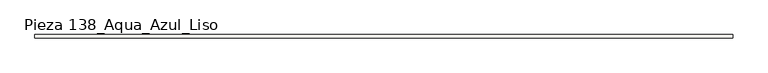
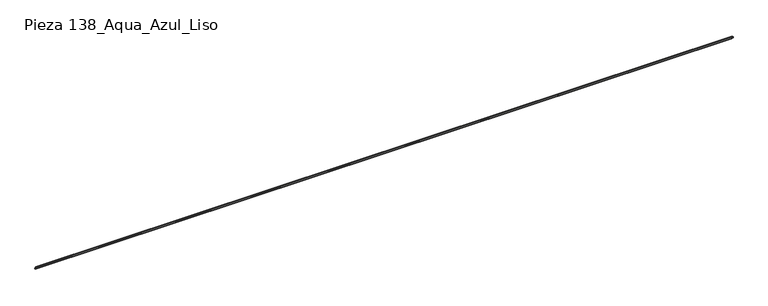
"""IFC4 building model written with IfcOpenShell, lengths in millimetres: slab geometry, ROSA GRES_138 : Pieza 138_Aqua_Azul_Liso."""

import ifcopenshell
import ifcopenshell.guid

model = None  # the IFC model being written
_history = None  # IfcOwnerHistory: only IFC2X3 demands one
_inside = {}  # id of a spatial element -> (the spatial element, [elements in it])
_under = {}  # id of a project, library or spatial element -> (it, [spatial elements below it])
_declared = {}  # id of a project -> (the project, [libraries it declares])
_typed = {}  # id of a type object -> (the type object, [elements of that type])
_made_of = {}  # id of a material, layer set ... -> (it, [elements and type objects made of it])


def new_model(schema):
    """Start an empty IFC model of exactly this schema.

    Asked for "IFC4X3", IfcOpenShell would pick the latest addendum, in which some entities
    have other attributes; the version numbers below select the first issue.
    IFC2X3 requires an IfcOwnerHistory on every rooted entity: one is made here for all.
    """
    global model, _history
    if schema == "IFC4X3":
        model = ifcopenshell.file(schema_version=(4, 3, 0, 0))
    else:
        model = ifcopenshell.file(schema=schema)
    _inside.clear()
    _under.clear()
    _declared.clear()
    _typed.clear()
    _made_of.clear()
    _history = None
    if model.schema == "IFC2X3":
        org = make("IfcOrganization", Name="unknown")
        user = make(
            "IfcPersonAndOrganization",
            ThePerson=make("IfcPerson", FamilyName="unknown"),
            TheOrganization=org,
        )
        app = make(
            "IfcApplication",
            ApplicationDeveloper=org,
            Version="unknown",
            ApplicationFullName="unknown",
            ApplicationIdentifier="unknown",
        )
        _history = make(
            "IfcOwnerHistory",
            OwningUser=user,
            OwningApplication=app,
            ChangeAction="ADDED",
            CreationDate=0,
        )
    return model


def make(cls, **values):
    """One entity of the class cls with the attributes given. An attribute that is None is left unset."""
    return model.create_entity(
        cls, **{name: value for name, value in values.items() if value is not None}
    )


def rooted(cls, **values):
    """An entity with a GlobalId (a new one), such as an element, a storey or a relation."""
    return make(cls, GlobalId=ifcopenshell.guid.new(), OwnerHistory=_history, **values)


def si_unit(unit_type, name, prefix=None):
    """IfcSIUnit, for example si_unit("LENGTHUNIT", "METRE", prefix="MILLI")."""
    return make("IfcSIUnit", UnitType=unit_type, Prefix=prefix, Name=name)


def assignment(units):
    """IfcUnitAssignment: the units of a project."""
    return None if units is None else make("IfcUnitAssignment", Units=units)


def point(xyz):
    """IfcCartesianPoint."""
    return None if xyz is None else make("IfcCartesianPoint", Coordinates=xyz)


def direction(xyz):
    """IfcDirection."""
    return None if xyz is None else make("IfcDirection", DirectionRatios=xyz)


def frame(location, z_axis=None, x_axis=None):
    """IfcAxis2Placement3D, a coordinate frame: its origin and axes. An axis left out is left unset."""
    return make(
        "IfcAxis2Placement3D",
        Location=point(location),
        Axis=direction(z_axis),
        RefDirection=direction(x_axis),
    )


def frame_2d(location, x_axis=None):
    """IfcAxis2Placement2D, a coordinate frame in the plane: its origin and x axis."""
    return make(
        "IfcAxis2Placement2D", Location=point(location), RefDirection=direction(x_axis)
    )


def origin():
    """The frame at (0, 0, 0) with its axes left unset."""
    return frame((0.0, 0.0, 0.0))


def origin_2d():
    """The frame at (0, 0) in the plane with its x axis left unset."""
    return frame_2d((0.0, 0.0))


def place(relative_to, where):
    """IfcLocalPlacement: puts the frame where relative to a parent placement (None: the world)."""
    return make(
        "IfcLocalPlacement", PlacementRelTo=relative_to, RelativePlacement=where
    )


def context(
    kind, dimensions, precision=None, world=None, true_north=None, identifier=None
):
    """IfcGeometricRepresentationContext, for example the 3D "Model" context."""
    return make(
        "IfcGeometricRepresentationContext",
        ContextIdentifier=identifier,
        ContextType=kind,
        CoordinateSpaceDimension=dimensions,
        Precision=precision,
        WorldCoordinateSystem=world,
        TrueNorth=true_north,
    )


def project(units=None, contexts=None):
    """IfcProject with its units and contexts."""
    return rooted(
        "IfcProject",
        Name="project",
        RepresentationContexts=contexts,
        UnitsInContext=assignment(units),
    )


def spatial(cls, under=None, at=None, **own):
    """A site, building, storey or space (cls), placed at a placement, below another one or the project."""
    s = rooted(cls, ObjectPlacement=at, **own)
    if under is not None:
        _under.setdefault(under.id(), (under, []))[1].append(s)
    return s


def polyline(points):
    """IfcPolyline through the points."""
    return make("IfcPolyline", Points=[point(p) for p in points])


def circle_curve(where, radius):
    """IfcCircle in the frame where."""
    return make("IfcCircle", Position=where, Radius=radius)


def trimmed(basis, trim1, trim2, sense, master):
    """IfcTrimmedCurve: the piece of a basis curve between two trims."""
    return make(
        "IfcTrimmedCurve",
        BasisCurve=basis,
        Trim1=trim1,
        Trim2=trim2,
        SenseAgreement=sense,
        MasterRepresentation=master,
    )


def segment(curve, same_sense, transition):
    """IfcCompositeCurveSegment."""
    return make(
        "IfcCompositeCurveSegment",
        Transition=transition,
        SameSense=same_sense,
        ParentCurve=curve,
    )


def composite_curve(segments, self_intersect=None):
    """IfcCompositeCurve: segments joined end to end."""
    return make("IfcCompositeCurve", Segments=segments, SelfIntersect=self_intersect)


def outline(outer, holes=None, kind="AREA"):
    """IfcArbitraryClosedProfileDef: a profile drawn as a closed curve; with holes, ...WithVoids."""
    if holes is None:
        return make("IfcArbitraryClosedProfileDef", ProfileType=kind, OuterCurve=outer)
    return make(
        "IfcArbitraryProfileDefWithVoids",
        ProfileType=kind,
        OuterCurve=outer,
        InnerCurves=holes,
    )


def extrude(swept, where, along, depth):
    """IfcExtrudedAreaSolid: the profile swept, set in the frame where, extruded along a direction by depth."""
    return make(
        "IfcExtrudedAreaSolid",
        SweptArea=swept,
        Position=where,
        ExtrudedDirection=direction(along),
        Depth=depth,
    )


def shape(context_of_items, identifier, shape_type, items):
    """IfcShapeRepresentation: the items that make up one representation, for example the "Body"."""
    return make(
        "IfcShapeRepresentation",
        ContextOfItems=context_of_items,
        RepresentationIdentifier=identifier,
        RepresentationType=shape_type,
        Items=items,
    )


def source(mapping_origin, context_of_items, identifier, shape_type, items):
    """IfcRepresentationMap: a shape defined once, which mapped items show again and again."""
    return make(
        "IfcRepresentationMap",
        MappingOrigin=mapping_origin,
        MappedRepresentation=shape(context_of_items, identifier, shape_type, items),
    )


def transform(
    local_origin,
    x_axis=None,
    y_axis=None,
    z_axis=None,
    scale=None,
    scale2=None,
    scale3=None,
    uniform=True,
):
    """IfcCartesianTransformationOperator3D, or its non-uniform kind. x_axis, y_axis, z_axis: its Axis1, 2, 3."""
    if uniform:
        return make(
            "IfcCartesianTransformationOperator3D",
            Axis1=direction(x_axis),
            Axis2=direction(y_axis),
            LocalOrigin=point(local_origin),
            Scale=scale,
            Axis3=direction(z_axis),
        )
    return make(
        "IfcCartesianTransformationOperator3DnonUniform",
        Axis1=direction(x_axis),
        Axis2=direction(y_axis),
        LocalOrigin=point(local_origin),
        Scale=scale,
        Axis3=direction(z_axis),
        Scale2=scale2,
        Scale3=scale3,
    )


def mapped(mapping_source, mapping_target):
    """IfcMappedItem: shows the shape of a source again, moved by a transform."""
    return make(
        "IfcMappedItem", MappingSource=mapping_source, MappingTarget=mapping_target
    )


def made_of(thing, what):
    """Note that an element or type object is made of a material, layer set ...; save() writes the relation."""
    if what is not None:
        _made_of.setdefault(what.id(), (what, []))[1].append(thing)
    return thing


def element(
    cls,
    number,
    at=None,
    inside=None,
    cuts=None,
    type_object=None,
    material=None,
    context=None,
    identifier="Body",
    shape_type=None,
    held_by="IfcProductDefinitionShape",
    body=None,
    shapes=None,
    **own,
):
    """One element of the class cls, such as IfcWall. Its Tag is "e" and its number.

    at: its placement. inside: the storey or other place that contains it. cuts: it is an
    opening in that element (IfcRelVoidsElement). A single representation is given by context,
    identifier, shape_type and body (its items); several are given by shapes. held_by: the class
    of the entity that holds the representations. save() writes the other relations.
    """
    e = rooted(cls, Tag="e%d" % number, ObjectPlacement=at, **own)
    if body is not None:
        shapes = [shape(context, identifier, shape_type, body)]
    if shapes is not None:
        e.Representation = make(held_by, Representations=shapes)
    if inside is not None:
        _inside.setdefault(inside.id(), (inside, []))[1].append(e)
    if cuts is not None:
        rooted(
            "IfcRelVoidsElement", RelatingBuildingElement=cuts, RelatedOpeningElement=e
        )
    if type_object is not None:
        _typed.setdefault(type_object.id(), (type_object, []))[1].append(e)
    return made_of(e, material)


def aggregate(whole, parts):
    """IfcRelAggregates: a whole, such as a stair, and the parts it consists of."""
    return rooted("IfcRelAggregates", RelatingObject=whole, RelatedObjects=parts)


def save(model, path):
    """Write the relations noted so far, then the file.

    IfcRelAggregates (storeys below a building ...), IfcRelContainedInSpatialStructure (elements
    in a storey), IfcRelDefinesByType, IfcRelAssociatesMaterial and IfcRelDeclares: one each for
    every whole, place, type object, material and project.
    """
    for whole, parts in _under.values():
        aggregate(whole, parts)
    for where, things in _inside.values():
        rooted(
            "IfcRelContainedInSpatialStructure",
            RelatedElements=things,
            RelatingStructure=where,
        )
    for kind, things in _typed.values():
        rooted("IfcRelDefinesByType", RelatedObjects=things, RelatingType=kind)
    for what, things in _made_of.values():
        rooted("IfcRelAssociatesMaterial", RelatedObjects=things, RelatingMaterial=what)
    for by, libraries in _declared.values():
        rooted("IfcRelDeclares", RelatingContext=by, RelatedDefinitions=libraries)
    model.write(path)


def pieza_138_aqua_azul_liso_61aa3b8b(model_context):
    return source(origin(), model_context, "Body", "SweptSolid", [
        extrude(outline(composite_curve([segment(trimmed(circle_curve(origin_2d(), 40.0), [point((0.0, 40.0))], [point((40.0, 0.0))], False, "CARTESIAN"), True, "CONTINUOUS"), segment(polyline([(40.0, 0.0), (30.0265886, 0.0)]), True, "CONTINUOUS"), segment(trimmed(circle_curve(frame_2d((0.0044453, 0.0044453)), 30.0221435), [point((30.0265886, 0.0))], [point((0.0, 30.0265886))], True, "CARTESIAN"), True, "CONTINUOUS"), segment(polyline([(0.0, 30.0265886), (0.0, 40.0)]), True, "CONTINUOUS")], self_intersect=False)), frame((0.0, 0.0, 0.0), z_axis=(1.0, 0.0, 0.0), x_axis=(0.0, 1.0, 0.0)), (0.0, 0.0, 1.0), 7980.0),
    ])


if __name__ == "__main__":
    model = new_model("IFC4")
    model_context = context("Model", 3, world=origin())
    ifc_project = project(units=[si_unit("LENGTHUNIT", "METRE", prefix="MILLI")], contexts=[model_context])
    site = spatial("IfcSite", under=ifc_project)
    building = spatial("IfcBuilding", under=site)
    placement = place(None, origin())
    pieza_138_aqua_azul_liso_shape = pieza_138_aqua_azul_liso_61aa3b8b(model_context)
    element("IfcSlab", 1, ObjectType="ROSA GRES_138 : Pieza 138_Aqua_Azul_Liso", at=placement, inside=building, context=model_context, shape_type="MappedRepresentation", body=[
        mapped(pieza_138_aqua_azul_liso_shape, transform((0.0, 0.0, 0.0), x_axis=(1.0, 0.0, 0.0), y_axis=(0.0, 1.0, 0.0), z_axis=(0.0, 0.0, 1.0))),
    ])
    save(model, "model.ifc")
